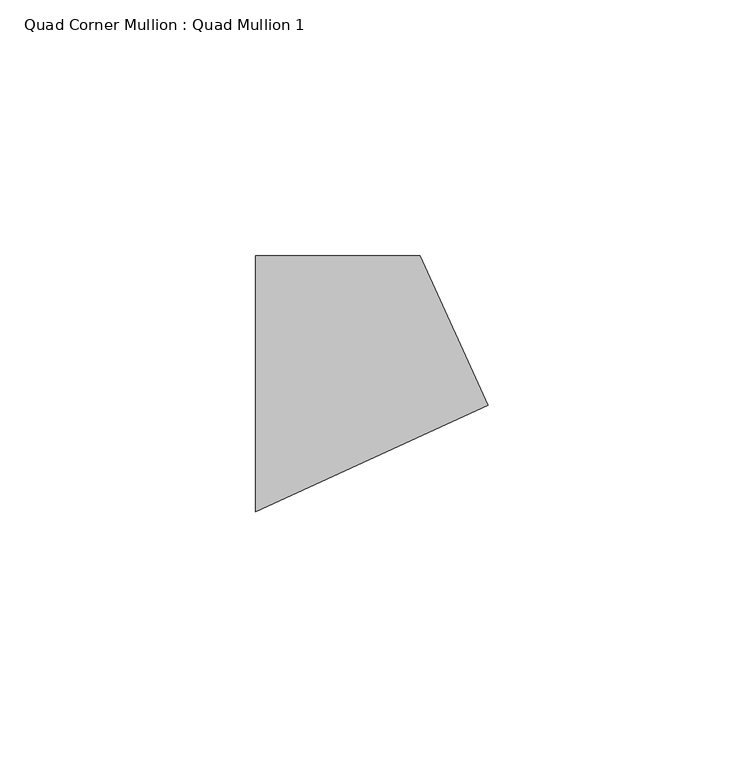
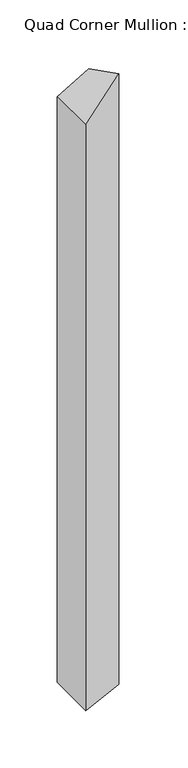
"""IFC4 building model written with IfcOpenShell, lengths in millimetres: member geometry, Quad Corner Mullion : Quad Mullion 1."""

from ifc_helpers import new_model, si_unit, origin, place, context, project, spatial, faceted_brep, source, transform, mapped, element, save


def quad_corner_mullion_quad_mullion_1_2a12b5b0(model_context):
    return source(origin(), model_context, "Body", "Brep", [
        faceted_brep([(16.0523154, 25.0, 9.2678086), (29.4125559, -4.1926582, 16.9813471), (29.4125559, -4.1926582, -635.0852961), (16.0523154, 25.0, -635.0852961), (-16.0523154, 25.0, -9.2678086), (-16.0523154, 25.0, -635.0852961), (-16.0523154, -25.0, -9.2678086), (-16.0523154, -25.0, -635.0852961)], [[[0, 1, 2, 3]], [[4, 0, 3, 5]], [[6, 4, 5, 7]], [[1, 6, 7, 2]], [[1, 0, 4, 6]], [[2, 7, 5, 3]]]),
    ])


if __name__ == "__main__":
    model = new_model("IFC4")
    model_context = context("Model", 3, world=origin())
    ifc_project = project(units=[si_unit("LENGTHUNIT", "METRE", prefix="MILLI")], contexts=[model_context])
    site = spatial("IfcSite", under=ifc_project)
    building = spatial("IfcBuilding", under=site)
    placement = place(None, origin())
    quad_corner_mullion_quad_mullion_1_shape = quad_corner_mullion_quad_mullion_1_2a12b5b0(model_context)
    element("IfcMember", 1, ObjectType="Quad Corner Mullion : Quad Mullion 1", at=placement, inside=building, context=model_context, shape_type="MappedRepresentation", body=[
        mapped(quad_corner_mullion_quad_mullion_1_shape, transform((0.0, 0.0, 0.0), x_axis=(1.0, 0.0, 0.0), y_axis=(0.0, 1.0, 0.0), z_axis=(0.0, 0.0, 1.0))),
    ])
    save(model, "model.ifc")
